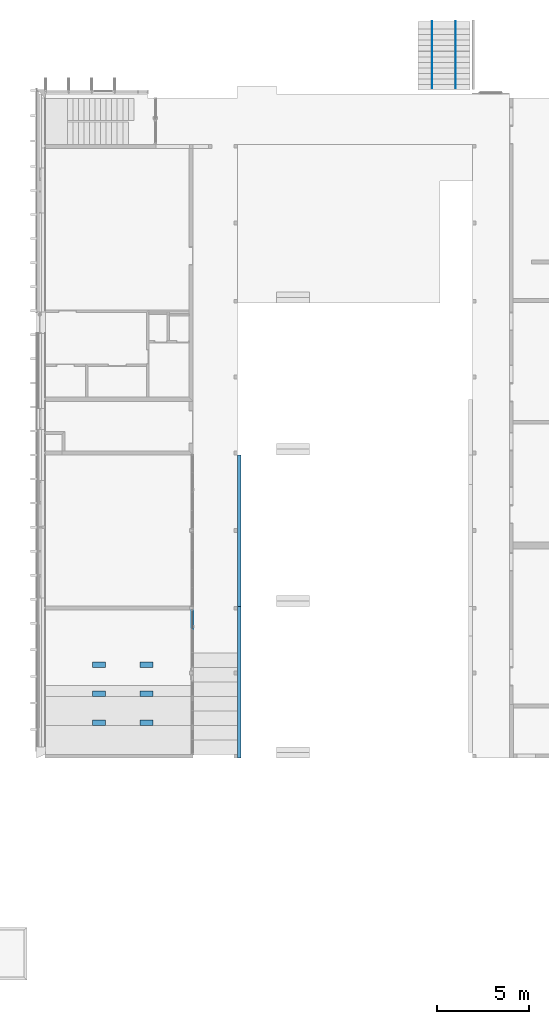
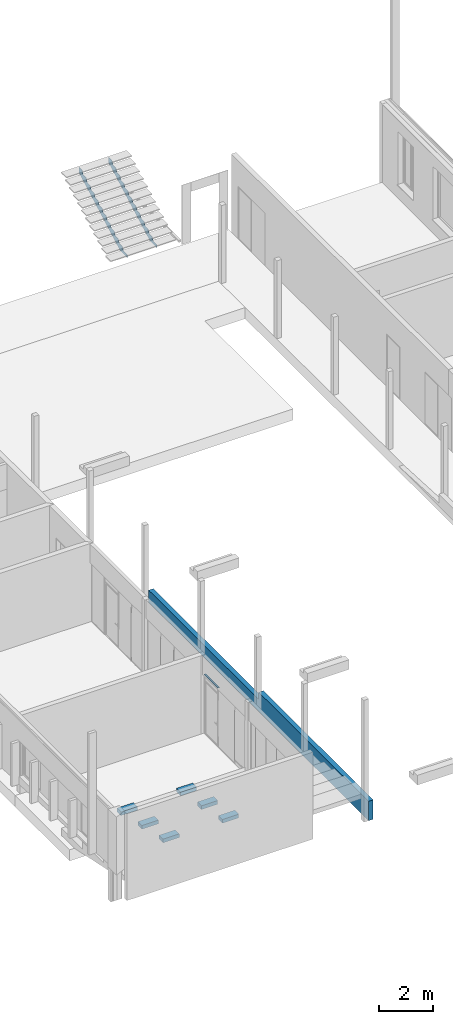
# One storey, part 12 of 65: 8 stairs, 2 building element parts, 1 wall, 2 elements without a shape of their own.
"""IFC2X3 building model written with IfcOpenShell, lengths in millimetres."""

from ifc_helpers import new_model, entity, si_unit, converted_unit, derived_unit, money_unit, direction, frame, origin_with_axes, place, context, subcontext, project, spatial, polyline, outline, extrude, boolean, faceted_brep, source, transform, mapped, material, type_object, element, aggregate, save


model = new_model("IFC2X3")

# Units and contexts
model_context = context("Model", 3, precision=0.01, world=origin_with_axes(), true_north=direction((0.0, 1.0)))
body_context = subcontext(model_context, "Body", "Model", "MODEL_VIEW")
ifc_project = project(units=[si_unit("LENGTHUNIT", "METRE", prefix="MILLI"), si_unit("AREAUNIT", "SQUARE_METRE"), si_unit("VOLUMEUNIT", "CUBIC_METRE"), converted_unit("PLANEANGLEUNIT", "DEGREE", entity("IfcPlaneAngleMeasure", 0.0174532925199), si_unit("PLANEANGLEUNIT", "RADIAN"), dimensions=[0, 0, 0, 0, 0, 0, 0]), si_unit("SOLIDANGLEUNIT", "STERADIAN"), money_unit("EUR"), converted_unit("TIMEUNIT", "Year", entity("IfcTimeMeasure", 31556926.0), si_unit("TIMEUNIT", "SECOND"), dimensions=[0, 0, 1, 0, 0, 0, 0]), si_unit("MASSUNIT", "GRAM", prefix="KILO"), si_unit("THERMODYNAMICTEMPERATUREUNIT", "DEGREE_CELSIUS"), si_unit("LUMINOUSINTENSITYUNIT", "LUMEN"), si_unit("ENERGYUNIT", "JOULE", prefix="MEGA"), derived_unit("THERMALCONDUCTANCEUNIT", [(si_unit("POWERUNIT", "WATT"), 1), (si_unit("LENGTHUNIT", "METRE"), -1), (si_unit("THERMODYNAMICTEMPERATUREUNIT", "KELVIN"), -1)]), derived_unit("SPECIFICHEATCAPACITYUNIT", [(si_unit("ENERGYUNIT", "JOULE"), 1), (si_unit("MASSUNIT", "GRAM", prefix="KILO"), -1), (si_unit("THERMODYNAMICTEMPERATUREUNIT", "KELVIN"), -1)]), derived_unit("MASSDENSITYUNIT", [(si_unit("MASSUNIT", "GRAM", prefix="KILO"), 1), (si_unit("VOLUMEUNIT", "CUBIC_METRE"), -1)])], contexts=[model_context])

# Site, building, storey
site_placement = place(None, origin_with_axes())
site = spatial("IfcSite", under=ifc_project, at=site_placement, Name="Puškini 31, Narva", CompositionType="ELEMENT")
building_placement = place(site_placement, origin_with_axes())
building = spatial("IfcBuilding", under=site, at=building_placement, Name="Narva Riigigümnaasium", CompositionType="ELEMENT")
storey_placement = place(building_placement, frame((0.0, 0.0, -1320.0), z_axis=(0.0, 0.0, 1.0), x_axis=(1.0, 0.0, 0.0)))
storey = spatial("IfcBuildingStorey", under=building, at=storey_placement, Name="1.korrus -1.32", CompositionType="ELEMENT", Elevation=-1320.0)

# Wall
ifc_material_1 = material(Name="KON-04_Betoon - Konstuktsioon")
wall_type = type_object("IfcWallType", Name="KON-04_Betoon - Konstuktsioon 200", PredefinedType="NOTDEFINED")
wall_placement = place(storey_placement, frame((32799.9999979, 175399.999946, 0.0), z_axis=(0.0, 0.0, 1.0), x_axis=(-2.08987083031e-10, -1.0, 0.0)))
element("IfcWall", 1, at=wall_placement, inside=storey, type_object=wall_type, material=ifc_material_1, Name="Sisesein", context=body_context, shape_type="CSG", body=[
    boolean("DIFFERENCE", extrude(outline(polyline([(-5.3856751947e-05, 0.0), (16399.9999491, 0.0), (16399.9999491, 200.0), (-5.3856751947e-05, 200.0), (-5.3856751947e-05, 0.0)])), origin_with_axes(), (0.0, 0.0, 1.0), 990.0), faceted_brep([(8200.00001085, 200.000001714, 650.0), (8200.00001085, 200.000001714, 550.0), (-4.18083345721e-08, 200.0, 550.0), (-5.3856751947e-05, 200.0, 990.0), (16399.9999491, 200.0, 990.0), (16399.9999494, 200.000003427, 880.0), (8200.00001085, 200.000001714, 880.0), (8200.00001089, 2.82948064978e-06, 650.0), (8200.00001089, 2.82948064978e-06, 550.0), (0.0, 1.11578657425e-06, 550.0), (-5.3856751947e-05, 0.0, 990.0), (16399.9999491, 0.0, 990.0), (16399.9999494, 4.38419078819e-06, 880.0), (8200.00001089, 2.82948064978e-06, 880.0)], [[[0, 1, 2, 3, 4, 5, 6]], [[1, 0, 7, 8]], [[9, 2, 1, 8]], [[2, 9, 10, 3]], [[3, 10, 11, 4]], [[12, 5, 4, 11]], [[6, 5, 12, 13]], [[0, 6, 13, 7]], [[13, 12, 11, 10, 9, 8, 7]]])),
])

# Stairs
ifc_material_2 = material(Name="ET-03_Raud")
shared_shape_1 = source(origin_with_axes(), body_context, "Body", "Brep", [
    faceted_brep([(-0.846749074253, 275.261336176, 0.0), (541.97593537, 275.261336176, 9.17174509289), (541.97593537, 275.261336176, 10.0), (-0.846753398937, 275.261336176, 10.0), (541.97593537, 275.261336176, 7.0081391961), (541.97593537, 275.261336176, 0.0), (3599.15325093, 1956.70883758, 0.0), (3599.15325093, 1956.70883758, 10.0), (3599.15325093, 2202.78919929, 10.0), (3360.24051674, 2202.78919929, 10.0), (3277.74048021, 2037.78922755, 10.0), (3060.24050507, 2037.78922755, 10.0), (2977.74046853, 1872.78920514, 10.0), (2760.24044292, 1872.78920514, 10.0), (2677.74045705, 1707.78918274, 10.0), (2460.24045662, 1707.78918274, 10.0), (2377.74047078, 1542.78921105, 10.0), (2160.24057119, 1542.78926173, 10.0), (2077.74048396, 1377.78923925, 10.0), (1860.2404089, 1377.78923925, 10.0), (1777.74047369, 1212.78921684, 10.0), (1560.24039683, 1212.78921684, 10.0), (1477.74046163, 1047.78919443, 10.0), (1260.24038566, 1047.78919443, 10.0), (1177.74045045, 882.789172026, 10.0), (960.240498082, 882.789172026, 10.0), (877.740461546, 717.789200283, 10.0), (660.240488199, 717.789200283, 10.0), (577.740451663, 552.789177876, 10.0), (360.24045144, 552.789177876, 10.0), (277.740465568, 387.789206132, 10.0), (-0.84676257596, 387.789206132, 10.0), (-0.846762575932, 387.789206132, 0.0), (277.740465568, 387.789206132, 0.0), (360.24045144, 552.789177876, 0.0), (577.740451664, 552.789177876, 0.0), (660.240488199, 717.789200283, 0.0), (877.740461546, 717.789200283, 0.0), (960.240498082, 882.789172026, 0.0), (1177.74045045, 882.789172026, 0.0), (1260.24038566, 1047.78919443, 0.0), (1477.74046163, 1047.78919443, 0.0), (1560.24039683, 1212.78921684, 0.0), (1777.74047369, 1212.78921684, 0.0), (1860.2404089, 1377.78923925, 0.0), (2077.74048396, 1377.78923925, 0.0), (2160.24057119, 1542.78926173, 0.0), (2377.74047078, 1542.78921105, 0.0), (2460.24045662, 1707.78918274, 0.0), (2677.74045705, 1707.78918274, 0.0), (2760.24044292, 1872.78920514, 0.0), (2977.74046853, 1872.78920514, 0.0), (3060.24050507, 2037.78922755, 0.0), (3277.74048021, 2037.78922755, 0.0), (3360.24051674, 2202.78919929, 0.0), (3599.15325093, 2202.78919929, 0.0)], [[[0, 1, 2, 3]], [[0, 4, 1]], [[4, 5, 6, 7, 2, 1]], [[3, 2, 7, 8, 9, 10, 11, 12, 13, 14, 15, 16, 17, 18, 19, 20, 21, 22, 23, 24, 25, 26, 27, 28, 29, 30, 31]], [[32, 0, 3, 31]], [[0, 5, 4]], [[0, 32, 33, 34, 35, 36, 37, 38, 39, 40, 41, 42, 43, 44, 45, 46, 47, 48, 49, 50, 51, 52, 53, 54, 55, 6, 5]], [[7, 6, 55, 8]], [[55, 54, 9, 8]], [[53, 10, 9, 54]], [[53, 52, 11, 10]], [[51, 12, 11, 52]], [[51, 50, 13, 12]], [[49, 14, 13, 50]], [[49, 48, 15, 14]], [[47, 16, 15, 48]], [[47, 46, 17, 16]], [[45, 18, 17, 46]], [[45, 44, 19, 18]], [[44, 43, 20, 19]], [[43, 42, 21, 20]], [[42, 41, 22, 21]], [[41, 40, 23, 22]], [[40, 39, 24, 23]], [[39, 38, 25, 24]], [[38, 37, 26, 25]], [[37, 36, 27, 26]], [[36, 35, 28, 27]], [[35, 34, 29, 28]], [[34, 33, 30, 29]], [[33, 32, 31, 30]]]),
])
for number, where, z_axis, x_axis in (
    (2, (43319.0, 195229.318076, -275.261336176), (1.0, 0.0, 0.0), (0.0, 1.0, 0.0)),
    (3, (44601.0, 195229.318076, -275.261336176), (1.0, 0.0, 0.0), (0.0, 1.0, 0.0)),
):
    element("IfcStair", number, at=place(storey_placement, frame(where, z_axis=z_axis, x_axis=x_axis)), inside=storey, material=ifc_material_2, Name="Trepitala", ShapeType="NOTDEFINED", context=body_context, shape_type="MappedRepresentation", body=[
        mapped(shared_shape_1, transform((0.0, 0.0, 0.0))),
    ])
ifc_material_3 = material(Name="Timber - Floor")
stair_1_placement = place(storey_placement, frame((24969.9999985, 164199.800006, 0.0), z_axis=(0.0, 0.0, 1.0), x_axis=(1.0, 0.0, 0.0)))
element("IfcStair", 4, at=stair_1_placement, inside=storey, material=ifc_material_3, Name="klass G-106 astmestik", ShapeType="NOTDEFINED", context=body_context, shape_type="Brep", body=[
    faceted_brep([(0.0, 0.0, 0.0), (0.0, 0.0, 165.0), (700.0, 0.0, 165.0), (700.0, 0.0, 0.0), (0.0, -300.0, 0.0), (0.0, -300.0, 165.0), (700.0, -300.0, 165.0), (700.0, -300.0, 0.0)], [[[0, 1, 2, 3]], [[4, 5, 1, 0]], [[2, 1, 5, 6]], [[3, 2, 6, 7]], [[3, 7, 4, 0]], [[7, 6, 5, 4]]]),
])
ifc_material_4 = material(Name="Karkass-sein")
stair_2_placement = place(storey_placement, frame((27530.0001211, 164199.800006, 0.0), z_axis=(0.0, 0.0, 1.0), x_axis=(1.0, 0.0, 0.0)))
element("IfcStair", 5, at=stair_2_placement, inside=storey, material=ifc_material_4, Name="klass G-106 astmestik", ShapeType="NOTDEFINED", context=body_context, shape_type="Brep", body=[
    faceted_brep([(0.0, 0.0, 0.0), (0.0, 0.0, 165.0), (700.0, 0.0, 165.0), (700.0, 0.0, 0.0), (0.0, -300.0, 0.0), (0.0, -300.0, 165.0), (700.0, -300.0, 165.0), (700.0, -300.0, 0.0)], [[[0, 1, 2, 3]], [[4, 5, 1, 0]], [[2, 1, 5, 6]], [[3, 2, 6, 7]], [[3, 7, 4, 0]], [[7, 6, 5, 4]]]),
])
for number, where, z_axis, x_axis, name in (
    (6, (24969.9999985, 162633.200005, 330.0), (0.0, 0.0, 1.0), (1.0, 0.0, 0.0), "klass G-106 astmestik"),
    (7, (27530.0001211, 162633.200005, 330.0), (0.0, 0.0, 1.0), (1.0, 0.0, 0.0), "klass G-106 astmestik"),
    (8, (24969.9999985, 161066.600005, 660.0), (0.0, 0.0, 1.0), (1.0, 0.0, 0.0), "klass G-106 astmestik"),
    (9, (27530.0001211, 161066.600005, 660.0), (0.0, 0.0, 1.0), (1.0, 0.0, 0.0), "klass G-106 astmestik"),
):
    element("IfcStair", number, at=place(storey_placement, frame(where, z_axis=z_axis, x_axis=x_axis)), inside=storey, material=ifc_material_3, Name=name, ShapeType="NOTDEFINED", context=body_context, shape_type="Brep", body=[
        faceted_brep([(0.0, 0.0, 0.0), (0.0, 0.0, 165.0), (700.0, 0.0, 165.0), (700.0, 0.0, 0.0), (0.0, -300.0, 0.0), (0.0, -300.0, 165.0), (700.0, -300.0, 165.0), (700.0, -300.0, 0.0)], [[[0, 1, 2, 3]], [[4, 5, 1, 0]], [[2, 1, 5, 6]], [[3, 2, 6, 7]], [[3, 7, 4, 0]], [[7, 6, 5, 4]]]),
    ])

# Curtain wall, member, building element parts
curtain_wall_type = type_object("IfcCurtainWallType", Name="Curtain Wall Type", PredefinedType="NOTDEFINED")
curtain_wall_placement = place(storey_placement, frame((30362.9999988, 164066.428557, -5.96047033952e-06), z_axis=(0.0, 0.0, 1.0), x_axis=(1.0, 0.0, 0.0)))
curtain_wall = element("IfcCurtainWall", 10, at=curtain_wall_placement, inside=storey, type_object=curtain_wall_type, Name="G-SKLF-04")
member_type = type_object("IfcMemberType", Name="Boundary Frame 30 x 37", PredefinedType="MULLION")
member_placement = place(curtain_wall_placement, frame((0.0, 1903.37144197, 2700.000022), z_axis=(0.0, 1.0, 0.0), x_axis=(0.0, 0.0, 1.0)))
member = element("IfcMember", 11, at=member_placement, type_object=member_type, Name="G-SKLF-28-raam", ObjectType="MULLION")
aggregate(curtain_wall, [member])
ifc_material_5 = material(Name="Klaasvill")
shared_shape_2 = source(origin_with_axes(), body_context, "Body", "Brep", [
    faceted_brep([(-7.49999990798, 20.000000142, 0.0), (-7.49999990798, 20.000000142, 1000.0), (-13.8499999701, 20.000000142, 1000.0), (-13.8499999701, 20.000000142, 0.0), (-7.49999990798, 34.0161444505, 0.0), (-7.49999990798, 34.0161444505, 1000.0), (-13.8499999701, 34.0161444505, 1000.0), (-13.8499999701, 34.0161444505, 0.0)], [[[0, 1, 2, 3]], [[4, 5, 1, 0]], [[1, 5, 6, 2]], [[3, 2, 6, 7]], [[0, 3, 7, 4]], [[7, 6, 5, 4]]]),
    faceted_brep([(-24.987414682, 34.0161444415, 0.0), (-24.987414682, 34.0161444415, 1000.0), (-25.004489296, 32.0307503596, 1000.0), (-25.004489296, 32.0307503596, 0.0), (-28.5126239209, 34.0161444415, 0.0), (-28.5126239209, 34.0161444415, 1000.0), (-28.7655837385, 33.0385325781, 1000.0), (-28.4955493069, 32.0307503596, 1000.0), (-27.75780152, 31.2930025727, 1000.0), (-26.7500193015, 31.0229681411, 1000.0), (-25.742237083, 31.2930025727, 1000.0), (-25.742237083, 31.2930025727, 0.0), (-26.7500193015, 31.0229681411, 0.0), (-27.75780152, 31.2930025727, 0.0), (-28.4955493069, 32.0307503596, 0.0), (-28.7655837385, 33.0385325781, 0.0)], [[[0, 1, 2, 3]], [[4, 5, 1, 0]], [[1, 5, 6, 7, 8, 9, 10, 2]], [[3, 2, 10, 11]], [[0, 3, 11, 12, 13, 14, 15, 4]], [[15, 6, 5, 4]], [[14, 7, 6, 15]], [[13, 8, 7, 14]], [[12, 9, 8, 13]], [[11, 10, 9, 12]]]),
    faceted_brep([(-7.49999990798, -19.9999997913, 0.0), (-7.49999990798, -19.9999997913, 1000.0), (-7.49999990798, -34.0161445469, 1000.0), (-7.49999990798, -34.0161445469, 0.0), (-13.8499999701, -19.9999997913, 0.0), (-13.8499999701, -19.9999997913, 1000.0), (-13.8499999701, -34.0161445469, 1000.0), (-13.8499999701, -34.0161445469, 0.0)], [[[0, 1, 2, 3]], [[4, 5, 1, 0]], [[1, 5, 6, 2]], [[3, 2, 6, 7]], [[0, 3, 7, 4]], [[7, 6, 5, 4]]]),
    faceted_brep([(-25.004489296, -32.0307503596, 0.0), (-25.004489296, -32.0307503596, 1000.0), (-24.987414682, -34.0161444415, 1000.0), (-24.987414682, -34.0161444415, 0.0), (-25.742237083, -31.2930025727, 0.0), (-25.742237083, -31.2930025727, 1000.0), (-26.7500193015, -31.0229681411, 1000.0), (-27.75780152, -31.2930025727, 1000.0), (-28.4955493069, -32.0307503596, 1000.0), (-28.7655837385, -33.0385325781, 1000.0), (-28.5126239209, -34.0161444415, 1000.0), (-28.5126239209, -34.0161444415, 0.0), (-28.7655837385, -33.0385325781, 0.0), (-28.4955493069, -32.0307503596, 0.0), (-27.75780152, -31.2930025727, 0.0), (-26.7500193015, -31.0229681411, 0.0)], [[[0, 1, 2, 3]], [[4, 5, 1, 0]], [[1, 5, 6, 7, 8, 9, 10, 2]], [[3, 2, 10, 11]], [[0, 3, 11, 12, 13, 14, 15, 4]], [[15, 6, 5, 4]], [[14, 7, 6, 15]], [[13, 8, 7, 14]], [[12, 9, 8, 13]], [[11, 10, 9, 12]]]),
])
building_element_part_1_placement = place(member_placement, origin_with_axes())
building_element_part_1 = element("IfcBuildingElementPart", 12, at=building_element_part_1_placement, material=ifc_material_5, Name="Klaasvill", context=body_context, shape_type="MappedRepresentation", body=[
    mapped(shared_shape_2, transform((0.0, 0.0, 0.0))),
])
ifc_material_6 = material(Name="Teras RAL7012")
shared_shape_3 = source(origin_with_axes(), body_context, "Body", "Brep", [
    faceted_brep([(0.0, -17.0000000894, 0.0), (0.0, -17.0000000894, 1000.0), (-29.5999996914, -17.0000000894, 1000.0), (-29.5999996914, -17.0000000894, 0.0), (0.0, 17.0000000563, 0.0), (0.0, 17.0000000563, 1000.0), (-29.5999996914, 17.0000000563, 1000.0), (-1.9999999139, 15.0000001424, 1000.0), (-1.9999999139, -15.0000001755, 1000.0), (-18.7999996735, -15.0000001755, 1000.0), (-18.7999996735, 15.0000001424, 1000.0), (-29.5999996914, 17.0000000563, 0.0), (-1.9999999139, 15.0000001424, 0.0), (-18.7999996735, 15.0000001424, 0.0), (-18.7999996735, -15.0000001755, 0.0), (-1.9999999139, -15.0000001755, 0.0)], [[[0, 1, 2, 3]], [[4, 5, 1, 0]], [[1, 5, 6, 2], [7, 8, 9, 10]], [[3, 2, 6, 11]], [[0, 3, 11, 4], [12, 13, 14, 15]], [[11, 6, 5, 4]], [[15, 8, 7, 12]], [[14, 9, 8, 15]], [[13, 10, 9, 14]], [[12, 7, 10, 13]]]),
    faceted_brep([(0.0, 17.0, 0.0), (0.0, 17.0, 1000.0), (-29.5999996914, 17.0000000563, 1000.0), (-29.5999996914, 17.0000000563, 0.0), (0.0, 37.0, 0.0), (0.0, 37.0, 1000.0), (-30.0000193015, 37.0, 1000.0), (-30.0000193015, 34.0161444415, 1000.0), (-28.5126239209, 34.0161444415, 1000.0), (-24.987414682, 34.0161444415, 1000.0), (-13.8499999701, 34.0161444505, 1000.0), (-7.49999999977, 34.0161444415, 1000.0), (-7.49999999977, 20.0, 1000.0), (-13.8499999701, 20.000000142, 1000.0), (-30.0000193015, 20.0, 1000.0), (-30.0000193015, 17.0, 1000.0), (-30.0000193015, 17.0, 0.0), (-30.0000193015, 20.0, 0.0), (-13.8499999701, 20.000000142, 0.0), (-7.49999999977, 20.0, 0.0), (-7.49999999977, 34.0161444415, 0.0), (-13.8499999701, 34.0161444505, 0.0), (-24.987414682, 34.0161444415, 0.0), (-28.5126239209, 34.0161444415, 0.0), (-30.0000193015, 34.0161444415, 0.0), (-30.0000193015, 37.0, 0.0)], [[[0, 1, 2, 3]], [[4, 5, 1, 0]], [[1, 5, 6, 7, 8, 9, 10, 11, 12, 13, 14, 15, 2]], [[3, 2, 15, 16]], [[0, 3, 16, 17, 18, 19, 20, 21, 22, 23, 24, 25, 4]], [[25, 6, 5, 4]], [[24, 7, 6, 25]], [[23, 8, 7, 24]], [[22, 9, 8, 23]], [[21, 10, 9, 22]], [[20, 11, 10, 21]], [[19, 12, 11, 20]], [[18, 13, 12, 19]], [[17, 14, 13, 18]], [[16, 15, 14, 17]]]),
    faceted_brep([(0.0, -17.0, 0.0), (0.0, -17.0, 1000.0), (0.0, -37.0, 1000.0), (0.0, -37.0, 0.0), (-29.5999996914, -17.0000000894, 0.0), (-29.5999996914, -17.0000000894, 1000.0), (-30.0000193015, -17.0, 1000.0), (-30.0000193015, -20.0, 1000.0), (-13.8499999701, -19.9999997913, 1000.0), (-7.49999999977, -20.0, 1000.0), (-7.49999999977, -34.0161444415, 1000.0), (-13.8499999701, -34.0161445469, 1000.0), (-24.987414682, -34.0161444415, 1000.0), (-28.5126239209, -34.0161444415, 1000.0), (-30.0000193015, -34.0161444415, 1000.0), (-30.0000193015, -37.0, 1000.0), (-30.0000193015, -37.0, 0.0), (-30.0000193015, -34.0161444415, 0.0), (-28.5126239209, -34.0161444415, 0.0), (-24.987414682, -34.0161444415, 0.0), (-13.8499999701, -34.0161445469, 0.0), (-7.49999999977, -34.0161444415, 0.0), (-7.49999999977, -20.0, 0.0), (-13.8499999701, -19.9999997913, 0.0), (-30.0000193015, -20.0, 0.0), (-30.0000193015, -17.0, 0.0)], [[[0, 1, 2, 3]], [[4, 5, 1, 0]], [[1, 5, 6, 7, 8, 9, 10, 11, 12, 13, 14, 15, 2]], [[3, 2, 15, 16]], [[0, 3, 16, 17, 18, 19, 20, 21, 22, 23, 24, 25, 4]], [[25, 6, 5, 4]], [[24, 7, 6, 25]], [[23, 8, 7, 24]], [[22, 9, 8, 23]], [[21, 10, 9, 22]], [[20, 11, 10, 21]], [[19, 12, 11, 20]], [[18, 13, 12, 19]], [[17, 14, 13, 18]], [[16, 15, 14, 17]]]),
])
building_element_part_2_placement = place(member_placement, origin_with_axes())
building_element_part_2 = element("IfcBuildingElementPart", 13, at=building_element_part_2_placement, material=ifc_material_6, Name="Teras RAL7012", context=body_context, shape_type="MappedRepresentation", body=[
    mapped(shared_shape_3, transform((0.0, 0.0, 0.0))),
])
aggregate(member, [building_element_part_1, building_element_part_2])

save(model, "model.ifc")
